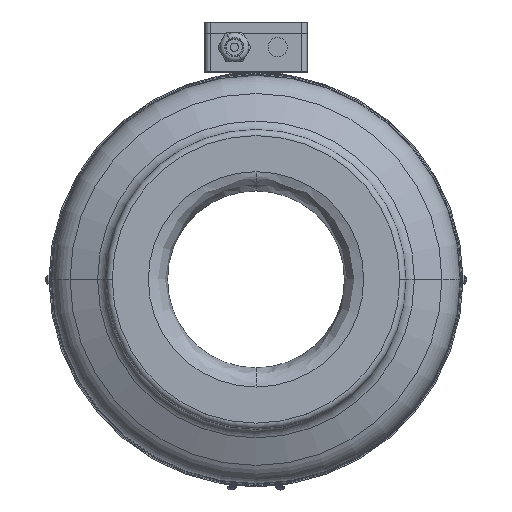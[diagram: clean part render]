
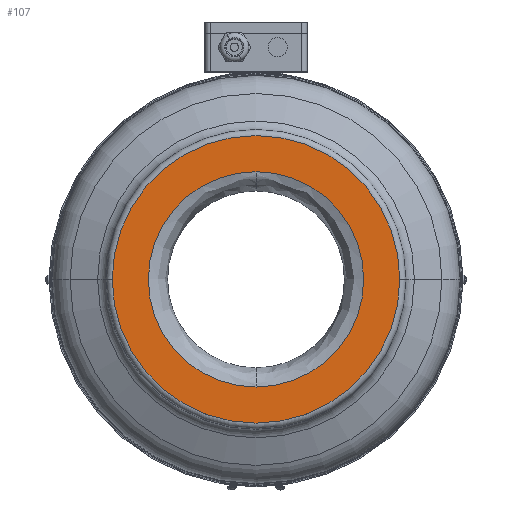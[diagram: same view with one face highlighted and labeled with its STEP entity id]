
A CAD part, top view. The second image highlights one B-rep face of the part: STEP entity #107.
In plain terms, the highlighted planar face has unit normal (0, 0, 1).
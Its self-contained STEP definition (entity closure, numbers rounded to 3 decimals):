
#107 = ADVANCED_FACE ( 'NONE', ( #6462, #6571 ), #5363, .F. ) ;
#727 = CARTESIAN_POINT ( 'NONE',  ( 0., 0., 125. ) ) ;
#1024 = DIRECTION ( 'NONE',  ( 0., 0., -1. ) ) ;
#1302 = DIRECTION ( 'NONE',  ( -1., 0., 0. ) ) ;
#1506 = DIRECTION ( 'NONE',  ( -1., 0., 0. ) ) ;
#1612 = CARTESIAN_POINT ( 'NONE',  ( 0., 0., 125. ) ) ;
#1616 = DIRECTION ( 'NONE',  ( 0., 0., -1. ) ) ;
#1900 = EDGE_LOOP ( 'NONE', ( #7457, #2495 ) ) ;
#1994 = VERTEX_POINT ( 'NONE', #5843 ) ;
#2271 = VERTEX_POINT ( 'NONE', #5539 ) ;
#2425 = VERTEX_POINT ( 'NONE', #5470 ) ;
#2495 = ORIENTED_EDGE ( 'NONE', *, *, #8182, .T. ) ;
#2534 = VERTEX_POINT ( 'NONE', #5442 ) ;
#2691 = EDGE_LOOP ( 'NONE', ( #7383, #7459 ) ) ;
#3081 = DIRECTION ( 'NONE',  ( -1., 0., 0. ) ) ;
#3109 = CARTESIAN_POINT ( 'NONE',  ( 0., 0., 125. ) ) ;
#3112 = DIRECTION ( 'NONE',  ( 0., 0., -1. ) ) ;
#4427 = CARTESIAN_POINT ( 'NONE',  ( 0., 0., 125. ) ) ;
#4493 = DIRECTION ( 'NONE',  ( -1., 0., 0. ) ) ;
#5083 = DIRECTION ( 'NONE',  ( 0., 0., -1. ) ) ;
#5254 = DIRECTION ( 'NONE',  ( 0., 0., -1. ) ) ;
#5334 = DIRECTION ( 'NONE',  ( -1., 0., 0. ) ) ;
#5363 = PLANE ( 'NONE',  #7953 ) ;
#5420 = CARTESIAN_POINT ( 'NONE',  ( 0., 89.5, 125. ) ) ;
#5442 = CARTESIAN_POINT ( 'NONE',  ( 0., 89.5, 125. ) ) ;
#5470 = CARTESIAN_POINT ( 'NONE',  ( 119.5, 0., 125. ) ) ;
#5539 = CARTESIAN_POINT ( 'NONE',  ( -119.5, 0., 125. ) ) ;
#5843 = CARTESIAN_POINT ( 'NONE',  ( 0., -89.5, 125. ) ) ;
#6301 = CIRCLE ( 'NONE', #8583, 119.5 ) ;
#6462 = FACE_OUTER_BOUND ( 'NONE', #2691, .T. ) ;
#6553 = CIRCLE ( 'NONE', #7970, 89.5 ) ;
#6571 = FACE_BOUND ( 'NONE', #1900, .T. ) ;
#6643 = CIRCLE ( 'NONE', #8694, 89.5 ) ;
#7212 = CIRCLE ( 'NONE', #7889, 119.5 ) ;
#7383 = ORIENTED_EDGE ( 'NONE', *, *, #8481, .F. ) ;
#7457 = ORIENTED_EDGE ( 'NONE', *, *, #8879, .T. ) ;
#7459 = ORIENTED_EDGE ( 'NONE', *, *, #7810, .F. ) ;
#7810 = EDGE_CURVE ( 'NONE', #2425, #2271, #7212, .T. ) ;
#7889 = AXIS2_PLACEMENT_3D ( 'NONE', #727, #1024, #1302 ) ;
#7953 = AXIS2_PLACEMENT_3D ( 'NONE', #5420, #5254, #5334 ) ;
#7970 = AXIS2_PLACEMENT_3D ( 'NONE', #4427, #5083, #4493 ) ;
#8182 = EDGE_CURVE ( 'NONE', #1994, #2534, #6553, .T. ) ;
#8481 = EDGE_CURVE ( 'NONE', #2271, #2425, #6301, .T. ) ;
#8583 = AXIS2_PLACEMENT_3D ( 'NONE', #3109, #3112, #3081 ) ;
#8694 = AXIS2_PLACEMENT_3D ( 'NONE', #1612, #1616, #1506 ) ;
#8879 = EDGE_CURVE ( 'NONE', #2534, #1994, #6643, .T. ) ;
